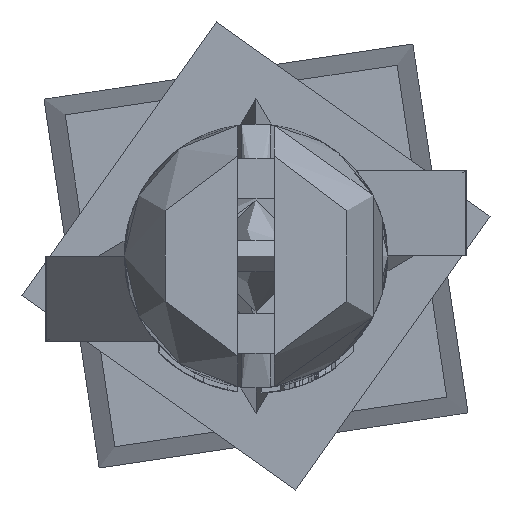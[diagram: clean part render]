
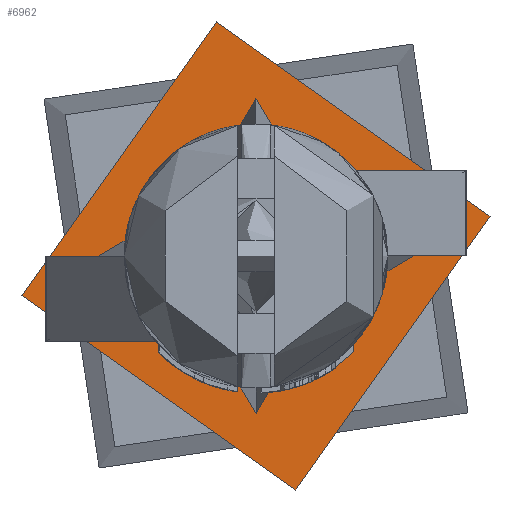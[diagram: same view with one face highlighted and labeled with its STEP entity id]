
A CAD part, front view. The second image highlights one B-rep face of the part: STEP entity #6962.
In plain terms, the highlighted planar face has unit normal (0, -1, 0) as drawn and (-1, 0, 0) by its records, which use the part's own axes.
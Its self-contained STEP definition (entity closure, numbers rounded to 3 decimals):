
#1745=PLANE('',#7401);
#1956=FACE_BOUND('',#2461,.T.);
#2031=FACE_OUTER_BOUND('',#2460,.T.);
#2460=EDGE_LOOP('',(#4865));
#2461=EDGE_LOOP('',(#4866));
#2876=CIRCLE('',#7396,1.6);
#2878=CIRCLE('',#7399,4.5);
#3011=VERTEX_POINT('',#10937);
#3013=VERTEX_POINT('',#10942);
#3729=EDGE_CURVE('',#3011,#3011,#2876,.T.);
#3731=EDGE_CURVE('',#3013,#3013,#2878,.T.);
#4865=ORIENTED_EDGE('',*,*,#3731,.T.);
#4866=ORIENTED_EDGE('',*,*,#3729,.T.);
#6962=ADVANCED_FACE('',(#2031,#1956),#1745,.T.);
#7396=AXIS2_PLACEMENT_3D('',#10938,#8046,#8047);
#7399=AXIS2_PLACEMENT_3D('',#10943,#8052,#8053);
#7401=AXIS2_PLACEMENT_3D('',#10945,#8056,#8057);
#8046=DIRECTION('center_axis',(1.,0.,0.));
#8047=DIRECTION('ref_axis',(0.,-1.,0.));
#8052=DIRECTION('center_axis',(-1.,0.,0.));
#8053=DIRECTION('ref_axis',(0.,-1.,0.));
#8056=DIRECTION('center_axis',(-1.,0.,0.));
#8057=DIRECTION('ref_axis',(0.,0.,1.));
#10937=CARTESIAN_POINT('',(0.,1.6,0.));
#10938=CARTESIAN_POINT('Origin',(0.,0.,0.));
#10942=CARTESIAN_POINT('',(0.,4.5,0.));
#10943=CARTESIAN_POINT('Origin',(0.,0.,0.));
#10945=CARTESIAN_POINT('Origin',(0.,0.,0.));
